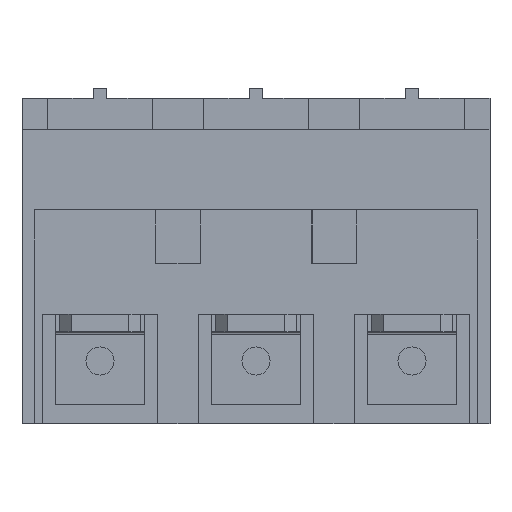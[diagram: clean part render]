
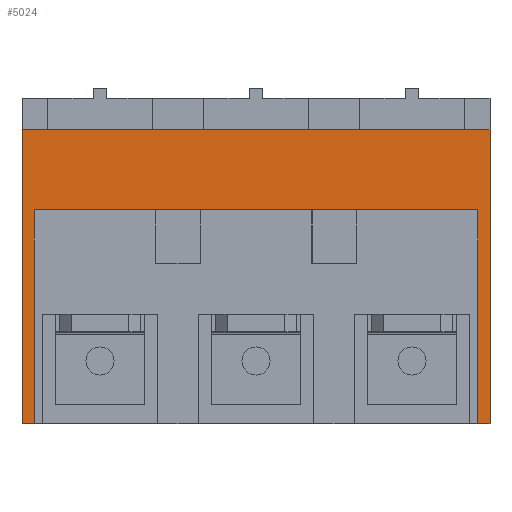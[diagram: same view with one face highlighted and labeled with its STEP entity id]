
A CAD part, front view. The second image highlights one B-rep face of the part: STEP entity #5024.
In plain terms, the highlighted planar face has unit normal (0, -1, 0).
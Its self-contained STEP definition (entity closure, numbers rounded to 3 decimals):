
#85 = EDGE_CURVE ( 'NONE', #3870, #12649, #9940, .T. ) ;
#220 = EDGE_CURVE ( 'NONE', #8475, #10420, #6397, .T. ) ;
#433 = CARTESIAN_POINT ( 'NONE',  ( 49.8, -84.5, -182.808 ) ) ;
#457 = LINE ( 'NONE', #7982, #14210 ) ;
#464 = AXIS2_PLACEMENT_3D ( 'NONE', #16544, #18082, #14032 ) ;
#1015 = ORIENTED_EDGE ( 'NONE', *, *, #11634, .T. ) ;
#1339 = ORIENTED_EDGE ( 'NONE', *, *, #85, .F. ) ;
#2078 = VECTOR ( 'NONE', #7462, 1000. ) ;
#2163 = FACE_OUTER_BOUND ( 'NONE', #14594, .T. ) ;
#2468 = DIRECTION ( 'NONE',  ( 0., 0., -1. ) ) ;
#2669 = VERTEX_POINT ( 'NONE', #14794 ) ;
#2793 = CARTESIAN_POINT ( 'NONE',  ( 52.5, -84.5, -9.3 ) ) ;
#3755 = LINE ( 'NONE', #10945, #16771 ) ;
#3836 = CARTESIAN_POINT ( 'NONE',  ( 52.5, -84.5, -9.3 ) ) ;
#3870 = VERTEX_POINT ( 'NONE', #11029 ) ;
#3871 = CARTESIAN_POINT ( 'NONE',  ( -49.8, -84.5, -75.3 ) ) ;
#4540 = EDGE_CURVE ( 'NONE', #3870, #10420, #3755, .T. ) ;
#4961 = ORIENTED_EDGE ( 'NONE', *, *, #12588, .T. ) ;
#5024 = ADVANCED_FACE ( 'NONE', ( #2163 ), #8277, .F. ) ;
#5164 = CARTESIAN_POINT ( 'NONE',  ( 52.5, -84.5, -75.3 ) ) ;
#5480 = VECTOR ( 'NONE', #2468, 1000. ) ;
#5964 = CARTESIAN_POINT ( 'NONE',  ( 52.5, -84.5, -9.3 ) ) ;
#6226 = CARTESIAN_POINT ( 'NONE',  ( -52.5, -84.5, -9.3 ) ) ;
#6268 = VERTEX_POINT ( 'NONE', #15968 ) ;
#6397 = LINE ( 'NONE', #3836, #5480 ) ;
#7438 = CARTESIAN_POINT ( 'NONE',  ( 52.5, -84.5, -27.3 ) ) ;
#7462 = DIRECTION ( 'NONE',  ( -1., 0., 0. ) ) ;
#7982 = CARTESIAN_POINT ( 'NONE',  ( -52.5, -84.5, -9.3 ) ) ;
#8187 = CARTESIAN_POINT ( 'NONE',  ( -49.8, -84.5, -75.3 ) ) ;
#8216 = ORIENTED_EDGE ( 'NONE', *, *, #16110, .F. ) ;
#8225 = DIRECTION ( 'NONE',  ( 1., 0., 0. ) ) ;
#8277 = PLANE ( 'NONE',  #464 ) ;
#8317 = DIRECTION ( 'NONE',  ( 1., 0., 0. ) ) ;
#8475 = VERTEX_POINT ( 'NONE', #2793 ) ;
#8949 = CARTESIAN_POINT ( 'NONE',  ( 49.8, -84.5, -27.3 ) ) ;
#9240 = VECTOR ( 'NONE', #8317, 1000. ) ;
#9321 = ORIENTED_EDGE ( 'NONE', *, *, #220, .F. ) ;
#9372 = LINE ( 'NONE', #5964, #2078 ) ;
#9593 = ORIENTED_EDGE ( 'NONE', *, *, #4540, .T. ) ;
#9900 = LINE ( 'NONE', #7438, #10346 ) ;
#9933 = ORIENTED_EDGE ( 'NONE', *, *, #14829, .T. ) ;
#9940 = LINE ( 'NONE', #433, #14818 ) ;
#10280 = DIRECTION ( 'NONE',  ( 0., 0., 1. ) ) ;
#10346 = VECTOR ( 'NONE', #17269, 1000. ) ;
#10420 = VERTEX_POINT ( 'NONE', #5164 ) ;
#10535 = VERTEX_POINT ( 'NONE', #3871 ) ;
#10936 = VERTEX_POINT ( 'NONE', #6226 ) ;
#10945 = CARTESIAN_POINT ( 'NONE',  ( 52.5, -84.5, -75.3 ) ) ;
#11029 = CARTESIAN_POINT ( 'NONE',  ( 49.8, -84.5, -75.3 ) ) ;
#11096 = VECTOR ( 'NONE', #11865, 1000. ) ;
#11634 = EDGE_CURVE ( 'NONE', #2669, #10535, #16930, .T. ) ;
#11865 = DIRECTION ( 'NONE',  ( 0., 0., 1. ) ) ;
#12434 = ORIENTED_EDGE ( 'NONE', *, *, #15205, .T. ) ;
#12558 = DIRECTION ( 'NONE',  ( 0., 0., -1. ) ) ;
#12588 = EDGE_CURVE ( 'NONE', #8475, #10936, #9372, .T. ) ;
#12649 = VERTEX_POINT ( 'NONE', #8949 ) ;
#14032 = DIRECTION ( 'NONE',  ( -1., 0., 0. ) ) ;
#14210 = VECTOR ( 'NONE', #12558, 1000. ) ;
#14531 = CARTESIAN_POINT ( 'NONE',  ( -49.8, -84.5, -182.808 ) ) ;
#14594 = EDGE_LOOP ( 'NONE', ( #4961, #9933, #1015, #12434, #8216, #1339, #9593, #9321 ) ) ;
#14794 = CARTESIAN_POINT ( 'NONE',  ( -52.5, -84.5, -75.3 ) ) ;
#14818 = VECTOR ( 'NONE', #10280, 1000. ) ;
#14829 = EDGE_CURVE ( 'NONE', #10936, #2669, #457, .T. ) ;
#14850 = LINE ( 'NONE', #14531, #11096 ) ;
#15205 = EDGE_CURVE ( 'NONE', #10535, #6268, #14850, .T. ) ;
#15968 = CARTESIAN_POINT ( 'NONE',  ( -49.8, -84.5, -27.3 ) ) ;
#16110 = EDGE_CURVE ( 'NONE', #12649, #6268, #9900, .T. ) ;
#16544 = CARTESIAN_POINT ( 'NONE',  ( 52.5, -84.5, -9.3 ) ) ;
#16771 = VECTOR ( 'NONE', #8225, 1000. ) ;
#16930 = LINE ( 'NONE', #8187, #9240 ) ;
#17269 = DIRECTION ( 'NONE',  ( -1., 0., 0. ) ) ;
#18082 = DIRECTION ( 'NONE',  ( 0., 1., 0. ) ) ;
